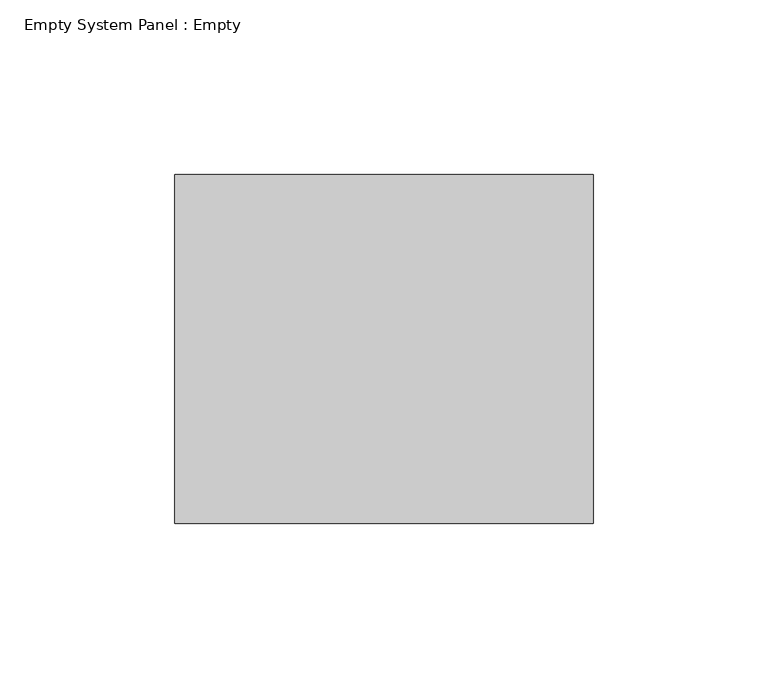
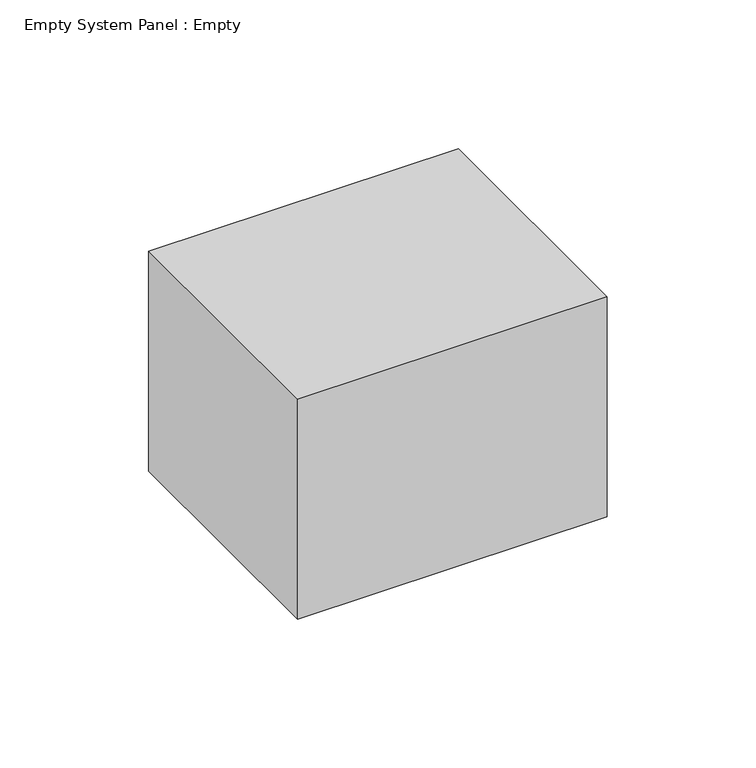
"""IFC4 building model written with IfcOpenShell, lengths in millimetres: plate geometry, Empty System Panel : Empty."""

from ifc_helpers import new_model, si_unit, origin, origin_with_axes, place, context, project, spatial, polyline, outline, extrude, source, transform, mapped, element, save


def empty_system_panel_empty_c0fd0dd9(model_context):
    return source(origin(), model_context, "Body", "SweptSolid", [
        extrude(outline(polyline([(60.0000002, 50.0), (-60.0000002, 50.0), (-60.0000002, 150.0), (60.0000002, 150.0), (60.0000002, 50.0)])), origin_with_axes(), (0.0, 0.0, 1.0), 90.0),
    ])


if __name__ == "__main__":
    model = new_model("IFC4")
    model_context = context("Model", 3, world=origin())
    ifc_project = project(units=[si_unit("LENGTHUNIT", "METRE", prefix="MILLI")], contexts=[model_context])
    site = spatial("IfcSite", under=ifc_project)
    building = spatial("IfcBuilding", under=site)
    placement = place(None, origin())
    empty_system_panel_empty_shape = empty_system_panel_empty_c0fd0dd9(model_context)
    element("IfcPlate", 1, ObjectType="Empty System Panel : Empty", at=placement, inside=building, context=model_context, shape_type="MappedRepresentation", body=[
        mapped(empty_system_panel_empty_shape, transform((0.0, 0.0, 0.0), x_axis=(1.0, 0.0, 0.0), y_axis=(0.0, 1.0, 0.0), z_axis=(0.0, 0.0, 1.0))),
    ])
    save(model, "model.ifc")
